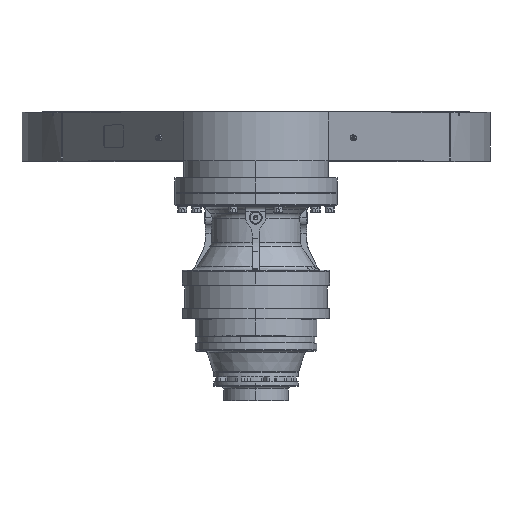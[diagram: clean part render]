
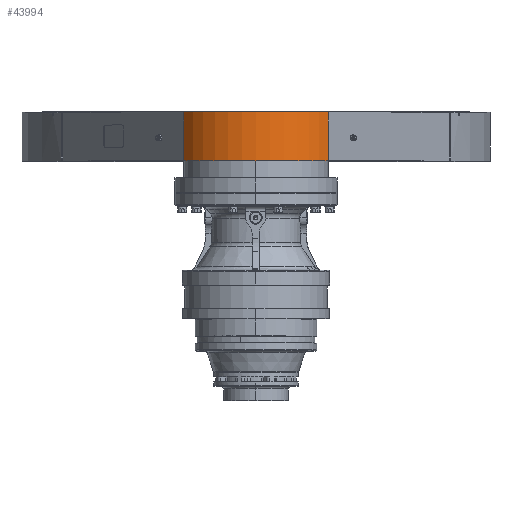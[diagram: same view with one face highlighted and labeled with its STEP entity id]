
A CAD part, top view. The second image highlights one B-rep face of the part: STEP entity #43994.
In plain terms, the highlighted cylindrical face has radius 175 mm (diameter 350 mm), a partial arc.
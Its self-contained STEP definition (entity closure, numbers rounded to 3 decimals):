
#3137=CARTESIAN_POINT('',(0.,0.,525.));
#3138=DIRECTION('',(0.,1.,0.));
#3139=DIRECTION('',(-0.827,0.,0.562));
#3140=AXIS2_PLACEMENT_3D('',#3137,#3138,#3139);
#3698=CARTESIAN_POINT('',(0.,98.,525.));
#3699=DIRECTION('',(0.,1.,0.));
#3700=DIRECTION('',(-0.827,0.,0.562));
#3701=AXIS2_PLACEMENT_3D('',#3698,#3699,#3700);
#11325=DIRECTION('',(0.,1.,0.));
#11326=VECTOR('',#11325,98.);
#11327=CARTESIAN_POINT('',(144.76,0.,623.333));
#11328=LINE('',#11327,#11326);
#11374=DIRECTION('',(0.,1.,0.));
#11375=VECTOR('',#11374,98.);
#11376=CARTESIAN_POINT('',(-144.76,0.,623.333));
#11377=LINE('',#11376,#11375);
#27124=CARTESIAN_POINT('',(-144.76,0.,623.333));
#27125=CARTESIAN_POINT('',(144.76,0.,623.333));
#27126=VERTEX_POINT('',#27124);
#27127=VERTEX_POINT('',#27125);
#27128=CARTESIAN_POINT('',(-144.76,98.,623.333));
#27129=CARTESIAN_POINT('',(144.76,98.,623.333));
#27130=VERTEX_POINT('',#27128);
#27131=VERTEX_POINT('',#27129);
#43982=CARTESIAN_POINT('',(0.,0.,525.));
#43983=DIRECTION('',(0.,1.,0.));
#43984=DIRECTION('',(1.,0.,0.));
#43985=AXIS2_PLACEMENT_3D('',#43982,#43983,#43984);
#43986=CYLINDRICAL_SURFACE('',#43985,175.);
#43987=ORIENTED_EDGE('',*,*,#33806,.F.);
#43989=ORIENTED_EDGE('',*,*,#43988,.T.);
#43990=ORIENTED_EDGE('',*,*,#34059,.T.);
#43991=ORIENTED_EDGE('',*,*,#43955,.F.);
#43992=EDGE_LOOP('',(#43987,#43989,#43990,#43991));
#43993=FACE_OUTER_BOUND('',#43992,.F.);
#3141=CIRCLE('',#3140,175.);
#3702=CIRCLE('',#3701,175.);
#33806=EDGE_CURVE('',#27126,#27127,#3141,.T.);
#34059=EDGE_CURVE('',#27130,#27131,#3702,.T.);
#43955=EDGE_CURVE('',#27127,#27131,#11328,.T.);
#43988=EDGE_CURVE('',#27126,#27130,#11377,.T.);
#43994=ADVANCED_FACE('',(#43993),#43986,.T.);
